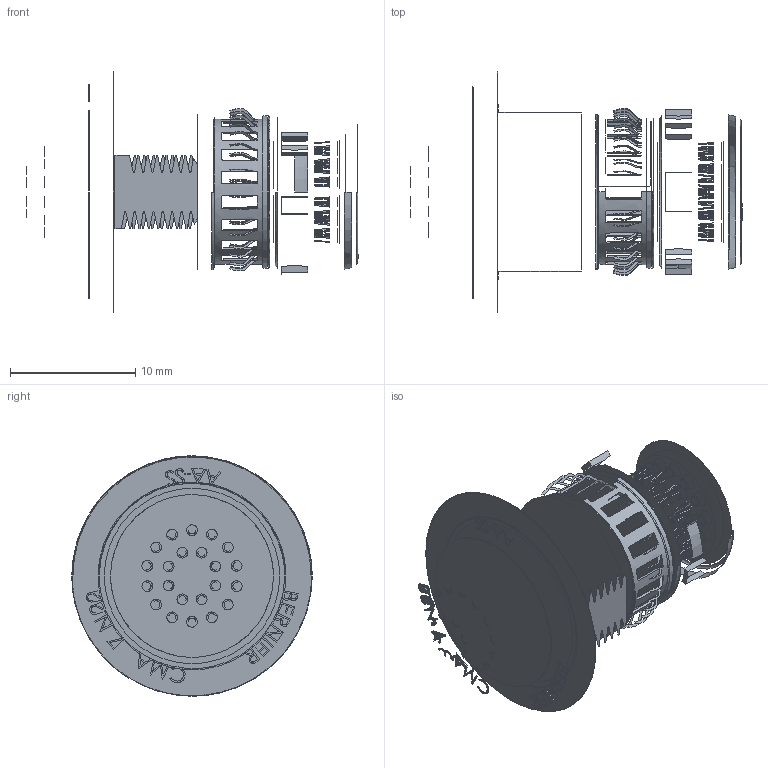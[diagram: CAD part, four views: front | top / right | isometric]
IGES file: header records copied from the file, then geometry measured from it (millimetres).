
Start section: SolidWorks IGES file using analytic representation for surfaces
Global section: file name: C:\Users\JGC\Desktop\CMA7N221.IGS; native system: SolidWorks 2017; preprocessor: SolidWorks 2017; author: jgc; date: 190123.152343; units: millimetre
Bounding box: 26.5 x 19.2 x 19.2 mm (x, y, z)
Surface area: 18025.1 mm2
Topology: 1 solids, 1 shells, 2217 faces, 6478 edges, 4416 vertices
Faces by surface type: revolution 1136, plane 622, bspline 459
